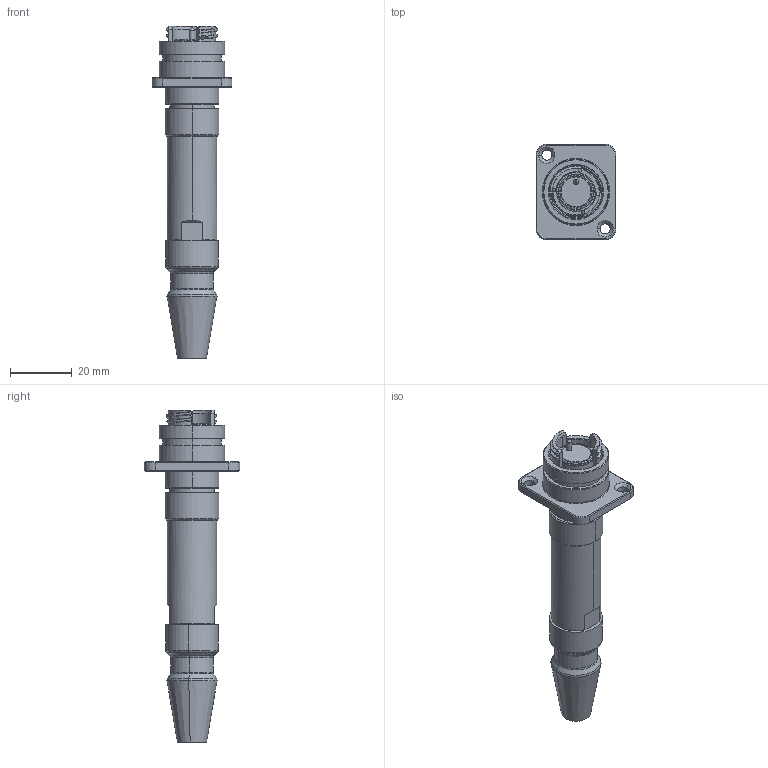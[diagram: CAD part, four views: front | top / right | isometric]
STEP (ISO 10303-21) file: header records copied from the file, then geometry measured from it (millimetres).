
FILE_DESCRIPTION (( 'STEP AP214' ), '1' );
FILE_NAME ('QMICRO-RXXX-XXXX-S95.STEP', '2025-05-02T23:46:32', ( '' ), ( '' ), 'SwSTEP 2.0', 'SolidWorks 2024', '' );
FILE_SCHEMA (( 'AUTOMOTIVE_DESIGN' ));
Length unit declared in the file: inch
Products named in the file (1): QMICRO-RXXX-XXXX-S95
Bounding box: 26 x 31 x 107.93 mm (x, y, z)
Volume: 21095.9 mm3; surface area: 9071.4 mm2
Topology: 1 solids, 1 shells, 232 faces, 547 edges, 336 vertices
Faces by surface type: cone 68, cylinder 66, plane 64, torus 18, bspline 16
Entity records: 9788 total; most frequent: CARTESIAN_POINT 4556, DIRECTION 1095, ORIENTED_EDGE 1094, EDGE_CURVE 547, AXIS2_PLACEMENT_3D 437, VERTEX_POINT 336, EDGE_LOOP 255, FACE_OUTER_BOUND 232
